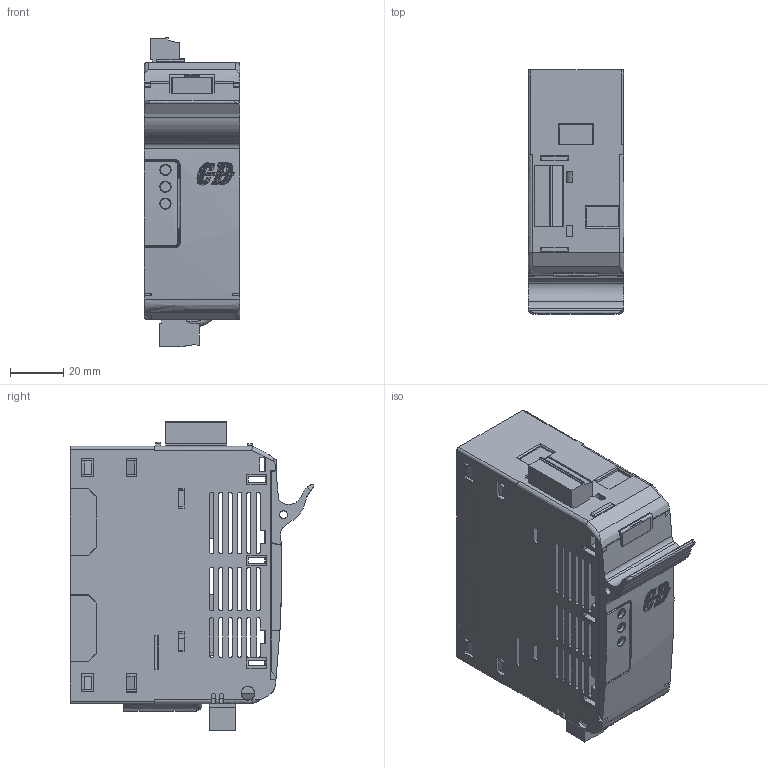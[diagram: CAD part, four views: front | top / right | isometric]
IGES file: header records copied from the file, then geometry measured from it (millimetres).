
Global section: file name: SR1; native system: AutoCAD 2015 - Italiano (Italian); preprocessor: Autodesk Translation Framework DWG producer (atf_dwg_producer); organization: unknown; date: 20191106.180554; units: millimetre
Bounding box: 36 x 91.89 x 116.65 mm (x, y, z)
Volume: 231155.9 mm3; surface area: 80537.1 mm2
Topology: 1 solids, 23 shells, 2193 faces, 6157 edges, 4063 vertices
Faces by surface type: bspline 2193
